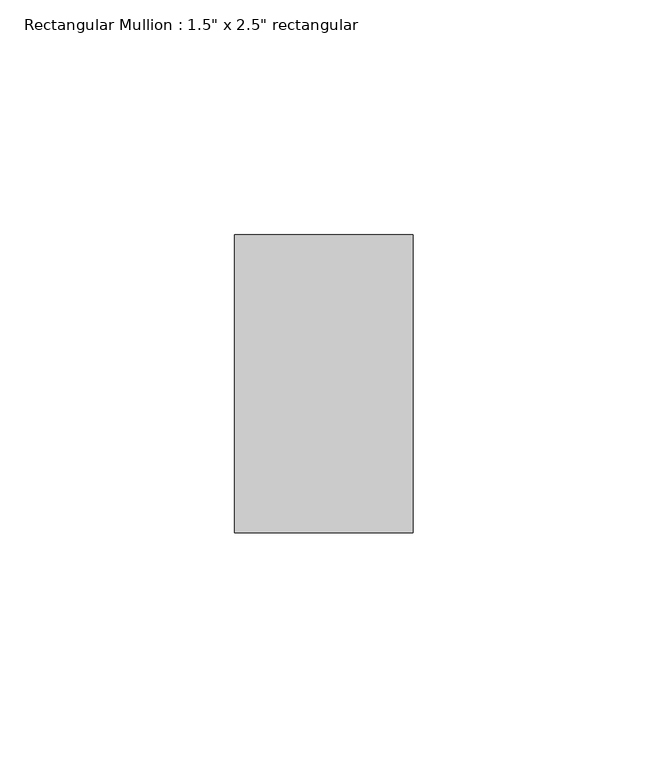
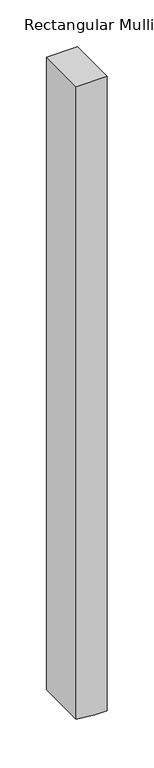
"""IFC4 building model written with IfcOpenShell, lengths in millimetres: member geometry."""

from ifc_helpers import new_model, si_unit, frame, origin, place, context, project, spatial, polyline, outline, extrude, source, transform, mapped, element, save


def member_fc960fec(model_context):
    return source(origin(), model_context, "Body", "SweptSolid", [
        extrude(outline(polyline([(0.0, 19.05), (0.0, -19.05), (-825.6447226, -19.05), (-827.4925382, 3.8633988), (-828.1195588, 19.05), (0.0, 19.05)])), frame((0.0, -31.75, 0.0), z_axis=(0.0, 1.0, 0.0), x_axis=(0.0, 0.0, 1.0)), (0.0, 0.0, 1.0), 63.5),
    ])


if __name__ == "__main__":
    model = new_model("IFC4")
    model_context = context("Model", 3, world=origin())
    ifc_project = project(units=[si_unit("LENGTHUNIT", "METRE", prefix="MILLI")], contexts=[model_context])
    site = spatial("IfcSite", under=ifc_project)
    building = spatial("IfcBuilding", under=site)
    placement = place(None, origin())
    member_shape = member_fc960fec(model_context)
    element("IfcMember", 1, ObjectType="Rectangular Mullion : 1.5\" x 2.5\" rectangular", at=placement, inside=building, context=model_context, shape_type="MappedRepresentation", body=[
        mapped(member_shape, transform((0.0, 0.0, 0.0), x_axis=(1.0, 0.0, 0.0), y_axis=(0.0, 1.0, 0.0), z_axis=(0.0, 0.0, 1.0))),
    ])
    save(model, "model.ifc")
